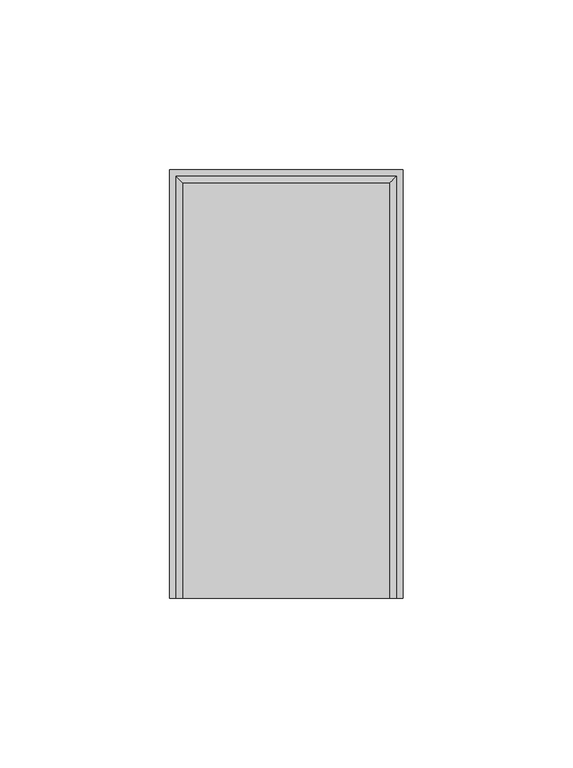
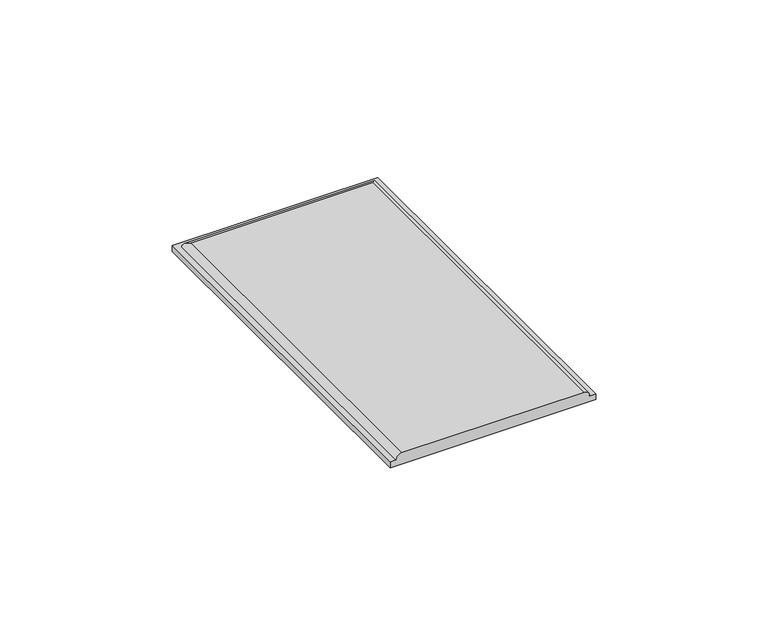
"""IFC4 building model written with IfcOpenShell, lengths in millimetres: proxy geometry, PBSHOP - HORIZONTES TULUM 6,5X23 : TULUM AGAVE."""

from ifc_helpers import new_model, si_unit, frame, origin, place, context, project, spatial, circle_curve, ellipse_curve, source, transform, mapped, element, save
from ifc_brep_helpers import plane_surface, cylinder_surface, advanced_brep


def generic_models_8360c89e(model_context):
    return source(origin(), model_context, "Body", "AdvancedBrep", [
        advanced_brep(
        [(30.5, 113.0, 4.0), (-30.5, 113.0, 4.0), (-30.5, -9.5, 4.0), (30.5, -9.5, 4.0), (-34.5, 117.0, 0.0), (34.5, 117.0, 0.0), (34.5, -9.5, 0.0), (-34.5, -9.5, 0.0), (32.5, 115.0, 2.0), (32.5, -9.5, 2.0), (-32.5, 115.0, 2.0), (-32.5, -9.5, 2.0), (34.5, 117.0, 2.0), (-34.5, 117.0, 2.0), (-34.5, -9.5, 2.0), (34.5, -9.5, 2.0)],
        [
            (0, 1),
            (1, 2),
            (2, 3),
            (3, 0),
            (4, 5),
            (5, 6),
            (6, 7),
            (7, 4),
            (8, 0, ellipse_curve(frame((30.5, 113.0, 2.0), z_axis=(0.7071067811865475, -0.7071067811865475, 0.0), x_axis=(0.7071067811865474, 0.7071067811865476, 0.0)), 2.8284271, 2.0)),
            (3, 9, circle_curve(frame((30.5, -9.5, 2.0), z_axis=(0.0, 1.0, 0.0), x_axis=(-1.0, 0.0, 0.0)), 2.0)),
            (9, 8),
            (8, 10),
            (10, 1, ellipse_curve(frame((-30.5, 113.0, 2.0), z_axis=(0.7071067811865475, 0.7071067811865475, 0.0), x_axis=(-0.7071067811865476, 0.7071067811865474, 0.0)), 2.8284271, 2.0)),
            (10, 11),
            (11, 2, circle_curve(frame((-30.5, -9.5, 2.0), z_axis=(0.0, 1.0, 0.0), x_axis=(1.0, 0.0, 0.0)), 2.0)),
            (12, 13),
            (13, 14),
            (14, 11),
            (9, 15),
            (15, 12),
            (12, 5),
            (4, 13),
            (7, 14),
            (15, 6),
        ],
        [
            plane_surface(frame((-32.5, -115.0, 4.0), z_axis=(0.0, 0.0, 1.0), x_axis=(1.0, 0.0, 0.0))),
            plane_surface(frame((-32.5, -115.0, 0.0), z_axis=(0.0, 0.0, -1.0), x_axis=(-1.0, 0.0, 0.0))),
            cylinder_surface(frame((30.5, -115.0, 2.0), z_axis=(0.0, 1.0, 0.0), x_axis=(-1.0, 0.0, 0.0)), 2.0),
            cylinder_surface(frame((32.5, 113.0, 2.0), z_axis=(-1.0, 0.0, 0.0), x_axis=(0.0, -1.0, 0.0)), 2.0),
            cylinder_surface(frame((-30.5, 115.0, 2.0), z_axis=(0.0, -1.0, 0.0), x_axis=(1.0, 0.0, 0.0)), 2.0),
            plane_surface(frame((-34.5, 117.0, 2.0), z_axis=(0.0, 0.0, 1.0), x_axis=(-1.0, 0.0, 0.0))),
            plane_surface(frame((34.5, 117.0, 2.0), z_axis=(0.0, 1.0, 0.0), x_axis=(0.0, 0.0, -1.0))),
            plane_surface(frame((-34.5, 117.0, 2.0), z_axis=(-1.0, 0.0, 0.0), x_axis=(0.0, 0.0, -1.0))),
            plane_surface(frame((34.5, -117.0, 2.0), z_axis=(1.0, 0.0, 0.0), x_axis=(0.0, 0.0, -1.0))),
            plane_surface(frame((34.5, -9.5, 25.0), z_axis=(0.0, -1.0, 0.0), x_axis=(0.0, 0.0, -1.0))),
        ],
        [
            (0, [[1, 2, 3, 4]]),
            (1, [[5, 6, 7, 8]]),
            (2, [[9, -4, 10, 11]]),
            (3, [[-9, 12, 13, -1]]),
            (4, [[-13, 14, 15, -2]]),
            (5, [[16, 17, 18, -14, -12, -11, 19, 20]]),
            (6, [[-16, 21, -5, 22]]),
            (7, [[-22, -8, 23, -17]]),
            (8, [[-21, -20, 24, -6]]),
            (9, [[-3, -15, -18, -23, -7, -24, -19, -10]]),
        ],
    ),
    ])


if __name__ == "__main__":
    model = new_model("IFC4")
    model_context = context("Model", 3, world=origin())
    ifc_project = project(units=[si_unit("LENGTHUNIT", "METRE", prefix="MILLI")], contexts=[model_context])
    site = spatial("IfcSite", under=ifc_project)
    building = spatial("IfcBuilding", under=site)
    placement = place(None, origin())
    generic_models_shape = generic_models_8360c89e(model_context)
    element("IfcBuildingElementProxy", 1, Name="PBSHOP - HORIZONTES TULUM 6,5X23 : TULUM AGAVE", ObjectType="PBSHOP - HORIZONTES TULUM 6,5X23 : TULUM AGAVE", at=placement, inside=building, context=model_context, shape_type="MappedRepresentation", body=[
        mapped(generic_models_shape, transform((0.0, 0.0, 0.0), x_axis=(1.0, 0.0, 0.0), y_axis=(0.0, 1.0, 0.0), z_axis=(0.0, 0.0, 1.0))),
    ])
    save(model, "model.ifc")
